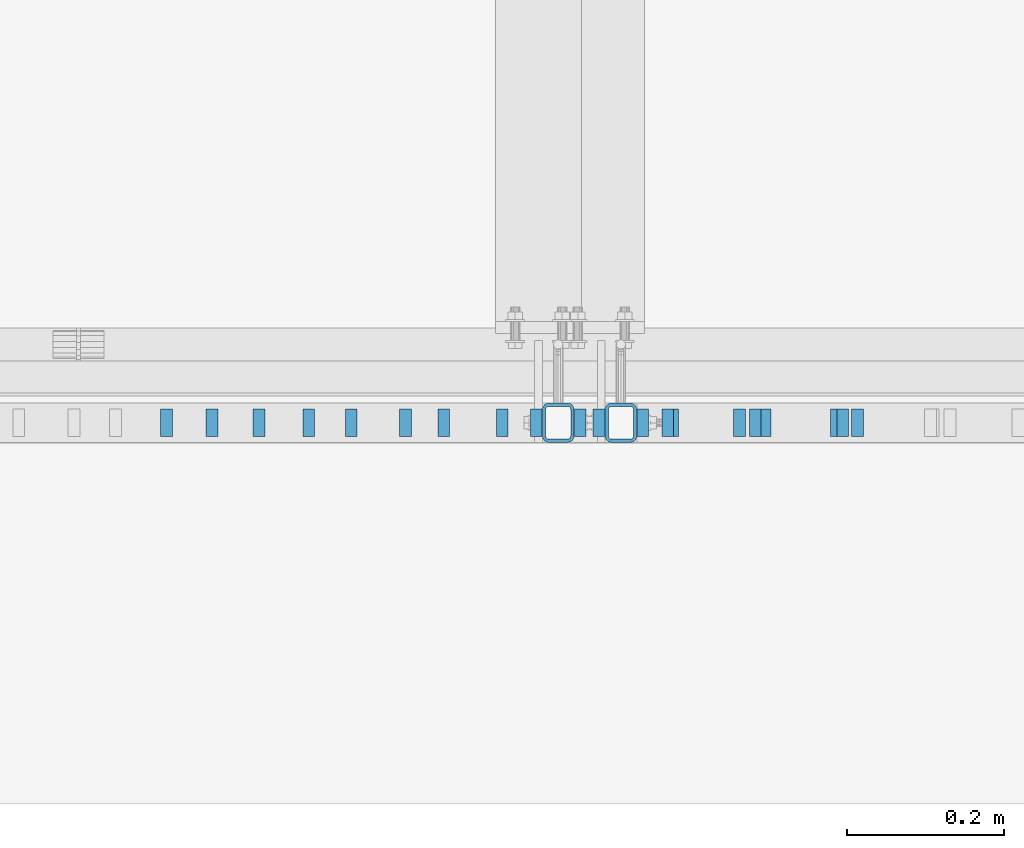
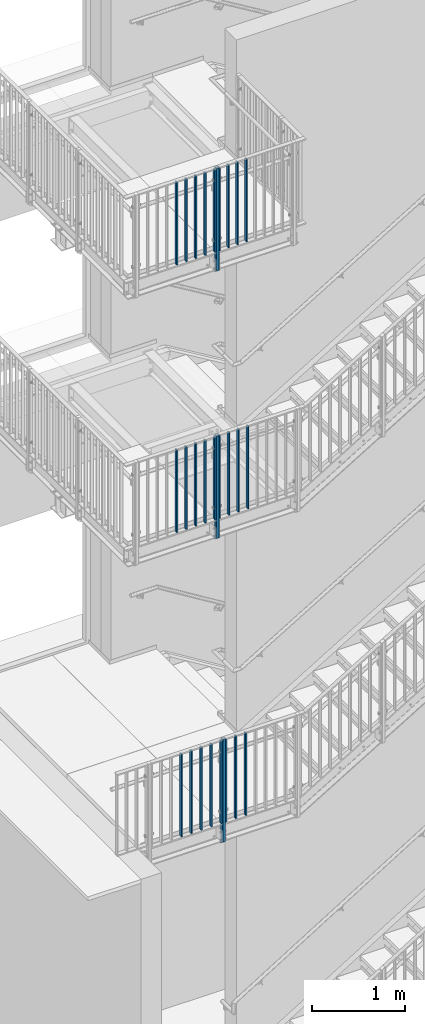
# One storey, part 2 of 410: 29 columns, 36 openings.
"""IFC2X3 building model written with IfcOpenShell, lengths in millimetres."""

from ifc_helpers import new_model, entity, si_unit, converted_unit, frame, frame_2d, origin, origin_with_axes, origin_2d, place, context, project, spatial, rectangle, hollow_rectangle, circle, extrude, clip, halfspace, material, element, save


model = new_model("IFC2X3")

# Units and contexts
model_context = context("Model", 3, precision=1e-09, world=origin_with_axes())
ifc_project = project(units=[si_unit("LENGTHUNIT", "METRE", prefix="MILLI"), si_unit("AREAUNIT", "SQUARE_METRE"), si_unit("VOLUMEUNIT", "CUBIC_METRE"), converted_unit("PLANEANGLEUNIT", "DEGREE", entity("IfcPlaneAngleMeasure", 0.01745329), si_unit("PLANEANGLEUNIT", "RADIAN"), dimensions=[0, 0, 0, 0, 0, 0, 0])], contexts=[model_context])

# Site, building, storey
site_placement = place(None, origin_with_axes())
site = spatial("IfcSite", under=ifc_project, at=site_placement, Name="mKR Teilneubau & Sanierung BA1 - Ostfildern", CompositionType="ELEMENT")
building_placement = place(site_placement, origin_with_axes())
building = spatial("IfcBuilding", under=site, at=building_placement, Name="Struktur 1", CompositionType="ELEMENT")
storey_placement = place(building_placement, origin_with_axes())
storey = spatial("IfcBuildingStorey", under=building, at=storey_placement, Name="Default Storey", CompositionType="ELEMENT", Elevation=0.0)

# Column, openings
ifc_material = material(Name="S235JR")
column_1_placement = place(None, frame((-2784.99853167, 15405.999999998, 8595.0), z_axis=(0.0, 0.0, 1.0), x_axis=(-1.0, 0.0, 0.0)))
column_1 = element("IfcColumn", 1, at=column_1_placement, inside=storey, material=ifc_material, Name="-", ObjectType="-", context=model_context, shape_type="Clipping", body=[
    clip(extrude(hollow_rectangle(XDim=40.0, YDim=50.0, WallThickness=4.0, InnerFilletRadius=4.0, OuterFilletRadius=8.0, at=origin_2d()), origin(), (0.0, 0.0, -1.0), 1444.603221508), halfspace(frame((-2784.99853167, 6937.065481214, 3499.89195223), z_axis=(0.0, -0.573576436, 0.819152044), x_axis=(1.0, 0.0, 0.0)), True)),
])
opening_1_placement = place(column_1_placement, frame((-20.5, 0.0, -1265.0), z_axis=(1.0, 0.0, 0.0), x_axis=(0.0, 1.0, 0.0)))
element("IfcOpeningElement", 2, at=opening_1_placement, cuts=column_1, ObjectType="Opening", context=model_context, shape_type="SweptSolid", body=[
    extrude(circle(Radius=7.001, at=frame_2d((0.0, 50.0), x_axis=(1.0, 0.0))), origin(), (0.0, 0.0, 1.0), 5.0),
])
opening_2_placement = place(column_1_placement, frame((-20.5, 0.0, -1265.0), z_axis=(1.0, 0.0, 0.0), x_axis=(0.0, 1.0, 0.0)))
element("IfcOpeningElement", 3, at=opening_2_placement, cuts=column_1, ObjectType="Opening", context=model_context, shape_type="SweptSolid", body=[
    extrude(circle(Radius=7.001, at=frame_2d((0.0, -50.0), x_axis=(1.0, 0.0))), origin(), (0.0, 0.0, 1.0), 5.0),
])
opening_3_placement = place(column_1_placement, frame((15.5, 0.0, -1265.0), z_axis=(1.0, 0.0, 0.0), x_axis=(0.0, 1.0, 0.0)))
element("IfcOpeningElement", 4, at=opening_3_placement, cuts=column_1, ObjectType="Opening", context=model_context, shape_type="SweptSolid", body=[
    extrude(circle(Radius=7.001, at=frame_2d((0.0, 50.0), x_axis=(1.0, 0.0))), origin(), (0.0, 0.0, 1.0), 5.0),
])
opening_4_placement = place(column_1_placement, frame((15.5, 0.0, -1265.0), z_axis=(1.0, 0.0, 0.0), x_axis=(0.0, 1.0, 0.0)))
element("IfcOpeningElement", 5, at=opening_4_placement, cuts=column_1, ObjectType="Opening", context=model_context, shape_type="SweptSolid", body=[
    extrude(circle(Radius=7.001, at=frame_2d((0.0, -50.0), x_axis=(1.0, 0.0))), origin(), (0.0, 0.0, 1.0), 5.0),
])
opening_5_placement = place(column_1_placement, frame((15.5, -6.501, -945.0), z_axis=(-1.0, 0.0, 0.0), x_axis=(0.0, -1.0, 0.0)))
element("IfcOpeningElement", 6, at=opening_5_placement, cuts=column_1, ObjectType="Opening", context=model_context, shape_type="SweptSolid", body=[
    extrude(circle(Radius=6.501, at=frame_2d((-6.501, 0.0), x_axis=(1.0, 0.0))), origin(), (0.0, 0.0, -1.0), 5.0),
])
opening_6_placement = place(column_1_placement, frame((15.5, -6.501, -160.0), z_axis=(-1.0, 0.0, 0.0), x_axis=(0.0, -1.0, 0.0)))
element("IfcOpeningElement", 7, at=opening_6_placement, cuts=column_1, ObjectType="Opening", context=model_context, shape_type="SweptSolid", body=[
    extrude(circle(Radius=6.501, at=frame_2d((-6.501, 0.0), x_axis=(1.0, 0.0))), origin(), (0.0, 0.0, -1.0), 5.0),
])
opening_7_placement = place(column_1_placement, frame((-20.5, -6.501, -945.0), z_axis=(-1.0, 0.0, 0.0), x_axis=(0.0, -1.0, 0.0)))
element("IfcOpeningElement", 8, at=opening_7_placement, cuts=column_1, ObjectType="Opening", context=model_context, shape_type="SweptSolid", body=[
    extrude(circle(Radius=6.501, at=frame_2d((-6.501, 0.0), x_axis=(1.0, 0.0))), origin(), (0.0, 0.0, -1.0), 5.0),
])
opening_8_placement = place(column_1_placement, frame((-20.5, -6.501, -160.0), z_axis=(-1.0, 0.0, 0.0), x_axis=(0.0, -1.0, 0.0)))
element("IfcOpeningElement", 9, at=opening_8_placement, cuts=column_1, ObjectType="Opening", context=model_context, shape_type="SweptSolid", body=[
    extrude(circle(Radius=6.501, at=frame_2d((-6.501, 0.0), x_axis=(1.0, 0.0))), origin(), (0.0, 0.0, -1.0), 5.0),
])

column_2_placement = place(None, frame((-2784.99853167, 15405.999999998, 5095.0), z_axis=(0.0, 0.0, 1.0), x_axis=(-1.0, 0.0, 0.0)))
column_2 = element("IfcColumn", 10, at=column_2_placement, inside=storey, material=ifc_material, Name="-", ObjectType="-", context=model_context, shape_type="Clipping", body=[
    clip(extrude(hollow_rectangle(XDim=40.0, YDim=50.0, WallThickness=4.0, InnerFilletRadius=4.0, OuterFilletRadius=8.0, at=origin_2d()), origin(), (0.0, 0.0, -1.0), 1444.603221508), halfspace(frame((-2784.99853167, 8581.527567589, 4651.356701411), z_axis=(0.0, -0.573576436, 0.819152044), x_axis=(1.0, 0.0, 0.0)), True)),
])
opening_9_placement = place(column_2_placement, frame((-20.5, 0.0, -1265.0), z_axis=(1.0, 0.0, 0.0), x_axis=(0.0, 1.0, 0.0)))
element("IfcOpeningElement", 11, at=opening_9_placement, cuts=column_2, ObjectType="Opening", context=model_context, shape_type="SweptSolid", body=[
    extrude(circle(Radius=7.001, at=frame_2d((0.0, 50.0), x_axis=(1.0, 0.0))), origin(), (0.0, 0.0, 1.0), 5.0),
])
opening_10_placement = place(column_2_placement, frame((-20.5, 0.0, -1265.0), z_axis=(1.0, 0.0, 0.0), x_axis=(0.0, 1.0, 0.0)))
element("IfcOpeningElement", 12, at=opening_10_placement, cuts=column_2, ObjectType="Opening", context=model_context, shape_type="SweptSolid", body=[
    extrude(circle(Radius=7.001, at=frame_2d((0.0, -50.0), x_axis=(1.0, 0.0))), origin(), (0.0, 0.0, 1.0), 5.0),
])
opening_11_placement = place(column_2_placement, frame((15.5, 0.0, -1265.0), z_axis=(1.0, 0.0, 0.0), x_axis=(0.0, 1.0, 0.0)))
element("IfcOpeningElement", 13, at=opening_11_placement, cuts=column_2, ObjectType="Opening", context=model_context, shape_type="SweptSolid", body=[
    extrude(circle(Radius=7.001, at=frame_2d((0.0, 50.0), x_axis=(1.0, 0.0))), origin(), (0.0, 0.0, 1.0), 5.0),
])
opening_12_placement = place(column_2_placement, frame((15.5, 0.0, -1265.0), z_axis=(1.0, 0.0, 0.0), x_axis=(0.0, 1.0, 0.0)))
element("IfcOpeningElement", 14, at=opening_12_placement, cuts=column_2, ObjectType="Opening", context=model_context, shape_type="SweptSolid", body=[
    extrude(circle(Radius=7.001, at=frame_2d((0.0, -50.0), x_axis=(1.0, 0.0))), origin(), (0.0, 0.0, 1.0), 5.0),
])
opening_13_placement = place(column_2_placement, frame((15.5, -6.501, -945.0), z_axis=(-1.0, 0.0, 0.0), x_axis=(0.0, -1.0, 0.0)))
element("IfcOpeningElement", 15, at=opening_13_placement, cuts=column_2, ObjectType="Opening", context=model_context, shape_type="SweptSolid", body=[
    extrude(circle(Radius=6.501, at=frame_2d((-6.501, 0.0), x_axis=(1.0, 0.0))), origin(), (0.0, 0.0, -1.0), 5.0),
])
opening_14_placement = place(column_2_placement, frame((15.5, -6.501, -160.0), z_axis=(-1.0, 0.0, 0.0), x_axis=(0.0, -1.0, 0.0)))
element("IfcOpeningElement", 16, at=opening_14_placement, cuts=column_2, ObjectType="Opening", context=model_context, shape_type="SweptSolid", body=[
    extrude(circle(Radius=6.501, at=frame_2d((-6.501, 0.0), x_axis=(1.0, 0.0))), origin(), (0.0, 0.0, -1.0), 5.0),
])
opening_15_placement = place(column_2_placement, frame((-20.5, -6.501, -945.0), z_axis=(-1.0, 0.0, 0.0), x_axis=(0.0, -1.0, 0.0)))
element("IfcOpeningElement", 17, at=opening_15_placement, cuts=column_2, ObjectType="Opening", context=model_context, shape_type="SweptSolid", body=[
    extrude(circle(Radius=6.501, at=frame_2d((-6.501, 0.0), x_axis=(1.0, 0.0))), origin(), (0.0, 0.0, -1.0), 5.0),
])
opening_16_placement = place(column_2_placement, frame((-20.5, -6.501, -160.0), z_axis=(-1.0, 0.0, 0.0), x_axis=(0.0, -1.0, 0.0)))
element("IfcOpeningElement", 18, at=opening_16_placement, cuts=column_2, ObjectType="Opening", context=model_context, shape_type="SweptSolid", body=[
    extrude(circle(Radius=6.501, at=frame_2d((-6.501, 0.0), x_axis=(1.0, 0.0))), origin(), (0.0, 0.0, -1.0), 5.0),
])

column_3_placement = place(None, frame((-2704.99853167, 15405.999999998, 1095.0), z_axis=(0.0, 0.0, 1.0), x_axis=(-1.0, 0.0, 0.0)))
column_3 = element("IfcColumn", 19, at=column_3_placement, inside=storey, material=ifc_material, Name="-", ObjectType="-", context=model_context, shape_type="Clipping", body=[
    clip(extrude(hollow_rectangle(XDim=40.0, YDim=50.0, WallThickness=4.0, InnerFilletRadius=4.0, OuterFilletRadius=8.0, at=origin_2d()), origin(), (0.0, 0.0, -1.0), 1444.603221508), halfspace(frame((-2704.99853167, 10460.912809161, 5967.316414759), z_axis=(0.0, -0.573576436, 0.819152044), x_axis=(1.0, 0.0, 0.0)), True)),
])
opening_17_placement = place(column_3_placement, frame((-20.5, 0.0, -1265.0), z_axis=(1.0, 0.0, 0.0), x_axis=(0.0, 1.0, 0.0)))
element("IfcOpeningElement", 20, at=opening_17_placement, cuts=column_3, ObjectType="Opening", context=model_context, shape_type="SweptSolid", body=[
    extrude(circle(Radius=7.001, at=frame_2d((0.0, 50.0), x_axis=(1.0, 0.0))), origin(), (0.0, 0.0, 1.0), 5.0),
])
opening_18_placement = place(column_3_placement, frame((-20.5, 0.0, -1265.0), z_axis=(1.0, 0.0, 0.0), x_axis=(0.0, 1.0, 0.0)))
element("IfcOpeningElement", 21, at=opening_18_placement, cuts=column_3, ObjectType="Opening", context=model_context, shape_type="SweptSolid", body=[
    extrude(circle(Radius=7.001, at=frame_2d((0.0, -50.0), x_axis=(1.0, 0.0))), origin(), (0.0, 0.0, 1.0), 5.0),
])
opening_19_placement = place(column_3_placement, frame((15.5, 0.0, -1265.0), z_axis=(1.0, 0.0, 0.0), x_axis=(0.0, 1.0, 0.0)))
element("IfcOpeningElement", 22, at=opening_19_placement, cuts=column_3, ObjectType="Opening", context=model_context, shape_type="SweptSolid", body=[
    extrude(circle(Radius=7.001, at=frame_2d((0.0, 50.0), x_axis=(1.0, 0.0))), origin(), (0.0, 0.0, 1.0), 5.0),
])
opening_20_placement = place(column_3_placement, frame((15.5, 0.0, -1265.0), z_axis=(1.0, 0.0, 0.0), x_axis=(0.0, 1.0, 0.0)))
element("IfcOpeningElement", 23, at=opening_20_placement, cuts=column_3, ObjectType="Opening", context=model_context, shape_type="SweptSolid", body=[
    extrude(circle(Radius=7.001, at=frame_2d((0.0, -50.0), x_axis=(1.0, 0.0))), origin(), (0.0, 0.0, 1.0), 5.0),
])
opening_21_placement = place(column_3_placement, frame((15.5, -6.501, -945.0), z_axis=(-1.0, 0.0, 0.0), x_axis=(0.0, -1.0, 0.0)))
element("IfcOpeningElement", 24, at=opening_21_placement, cuts=column_3, ObjectType="Opening", context=model_context, shape_type="SweptSolid", body=[
    extrude(circle(Radius=6.501, at=frame_2d((-6.501, 0.0), x_axis=(1.0, 0.0))), origin(), (0.0, 0.0, -1.0), 5.0),
])
opening_22_placement = place(column_3_placement, frame((15.5, -6.501, -160.0), z_axis=(-1.0, 0.0, 0.0), x_axis=(0.0, -1.0, 0.0)))
element("IfcOpeningElement", 25, at=opening_22_placement, cuts=column_3, ObjectType="Opening", context=model_context, shape_type="SweptSolid", body=[
    extrude(circle(Radius=6.501, at=frame_2d((-6.501, 0.0), x_axis=(1.0, 0.0))), origin(), (0.0, 0.0, -1.0), 5.0),
])
opening_23_placement = place(column_3_placement, frame((-20.5, -6.501, -945.0), z_axis=(-1.0, 0.0, 0.0), x_axis=(0.0, -1.0, 0.0)))
element("IfcOpeningElement", 26, at=opening_23_placement, cuts=column_3, ObjectType="Opening", context=model_context, shape_type="SweptSolid", body=[
    extrude(circle(Radius=6.501, at=frame_2d((-6.501, 0.0), x_axis=(1.0, 0.0))), origin(), (0.0, 0.0, -1.0), 5.0),
])
opening_24_placement = place(column_3_placement, frame((-20.5, -6.501, -160.0), z_axis=(-1.0, 0.0, 0.0), x_axis=(0.0, -1.0, 0.0)))
element("IfcOpeningElement", 27, at=opening_24_placement, cuts=column_3, ObjectType="Opening", context=model_context, shape_type="SweptSolid", body=[
    extrude(circle(Radius=6.501, at=frame_2d((-6.501, 0.0), x_axis=(1.0, 0.0))), origin(), (0.0, 0.0, -1.0), 5.0),
])

# Columns
for number, where, z_axis, x_axis in (
    (28, (-2930.99853167, 15405.999999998, 5085.0), (0.0, 0.0, 1.0), (-1.0, 0.0, 0.0)),
    (29, (-3048.99853167, 15405.999999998, 5085.0), (0.0, 0.0, 1.0), (-1.0, 0.0, 0.0)),
    (30, (-3166.99853167, 15405.999999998, 5085.0), (0.0, 0.0, 1.0), (-1.0, 0.0, 0.0)),
    (31, (-3284.99853167, 15405.999999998, 5085.0), (0.0, 0.0, 1.0), (-1.0, 0.0, 0.0)),
    (32, (-3226.71281747, 15405.999999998, 0.0), (0.0, 0.0, -1.0), (1.0, 0.0, 0.0)),
    (33, (-3103.28424607, 15405.999999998, 0.0), (0.0, 0.0, -1.0), (1.0, 0.0, 0.0)),
    (34, (-2979.85567467, 15405.999999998, 0.0), (0.0, 0.0, -1.0), (1.0, 0.0, 0.0)),
    (35, (-2856.42710327, 15405.999999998, 0.0), (0.0, 0.0, -1.0), (1.0, 0.0, 0.0)),
):
    element("IfcColumn", number, at=place(None, frame(where, z_axis=z_axis, x_axis=x_axis)), inside=storey, material=ifc_material, Name="-", ObjectType="-", context=model_context, shape_type="SweptSolid", body=[
        extrude(rectangle(XDim=15.0, YDim=35.0, at=origin_2d()), origin(), (0.0, 0.0, -1.0), 1085.0),
    ])

# Column, openings
column_4_placement = place(None, frame((-2756.99853167, 15405.999999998, 4000.0), z_axis=(0.0, 0.0, -1.0), x_axis=(1.0, 0.0, 0.0)))
column_4 = element("IfcColumn", 36, at=column_4_placement, inside=storey, material=ifc_material, Name="-", ObjectType="-", context=model_context, shape_type="SweptSolid", body=[
    extrude(rectangle(XDim=15.0, YDim=35.0, at=origin_2d()), origin(), (0.0, 0.0, -1.0), 1085.0),
])
opening_25_placement = place(column_4_placement, frame((8.0, -6.001, -150.0), z_axis=(1.0, 0.0, 0.0), x_axis=(0.0, 1.0, 0.0)))
element("IfcOpeningElement", 37, at=opening_25_placement, cuts=column_4, ObjectType="Opening", context=model_context, shape_type="SweptSolid", body=[
    extrude(circle(Radius=6.001, at=frame_2d((6.001, 0.0), x_axis=(1.0, 0.0))), origin(), (0.0, 0.0, -1.0), 16.0),
])
opening_26_placement = place(column_4_placement, frame((8.0, -6.001, -935.0), z_axis=(1.0, 0.0, 0.0), x_axis=(0.0, 1.0, 0.0)))
element("IfcOpeningElement", 38, at=opening_26_placement, cuts=column_4, ObjectType="Opening", context=model_context, shape_type="SweptSolid", body=[
    extrude(circle(Radius=6.001, at=frame_2d((6.001, 0.0), x_axis=(1.0, 0.0))), origin(), (0.0, 0.0, -1.0), 16.0),
])

# Columns
for number, where, z_axis, x_axis in (
    (39, (-2402.99853167, 15405.999999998, 5085.0), (0.0, 0.0, 1.0), (-1.0, 0.0, 0.0)),
    (40, (-2520.99853167, 15405.999999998, 5085.0), (0.0, 0.0, 1.0), (-1.0, 0.0, 0.0)),
    (41, (-2638.99853167, 15405.999999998, 5085.0), (0.0, 0.0, 1.0), (-1.0, 0.0, 0.0)),
):
    element("IfcColumn", number, at=place(None, frame(where, z_axis=z_axis, x_axis=x_axis)), inside=storey, material=ifc_material, Name="-", ObjectType="-", context=model_context, shape_type="SweptSolid", body=[
        extrude(rectangle(XDim=15.0, YDim=35.0, at=origin_2d()), origin(), (0.0, 0.0, -1.0), 1085.0),
    ])

# Column, openings
column_5_placement = place(None, frame((-2756.99853167, 15405.999999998, 7500.0), z_axis=(0.0, 0.0, -1.0), x_axis=(1.0, 0.0, 0.0)))
column_5 = element("IfcColumn", 42, at=column_5_placement, inside=storey, material=ifc_material, Name="-", ObjectType="-", context=model_context, shape_type="SweptSolid", body=[
    extrude(rectangle(XDim=15.0, YDim=35.0, at=origin_2d()), origin(), (0.0, 0.0, -1.0), 1085.0),
])
opening_27_placement = place(column_5_placement, frame((8.0, -6.001, -150.0), z_axis=(1.0, 0.0, 0.0), x_axis=(0.0, 1.0, 0.0)))
element("IfcOpeningElement", 43, at=opening_27_placement, cuts=column_5, ObjectType="Opening", context=model_context, shape_type="SweptSolid", body=[
    extrude(circle(Radius=6.001, at=frame_2d((6.001, 0.0), x_axis=(1.0, 0.0))), origin(), (0.0, 0.0, -1.0), 16.0),
])
opening_28_placement = place(column_5_placement, frame((8.0, -6.001, -935.0), z_axis=(1.0, 0.0, 0.0), x_axis=(0.0, 1.0, 0.0)))
element("IfcOpeningElement", 44, at=opening_28_placement, cuts=column_5, ObjectType="Opening", context=model_context, shape_type="SweptSolid", body=[
    extrude(circle(Radius=6.001, at=frame_2d((6.001, 0.0), x_axis=(1.0, 0.0))), origin(), (0.0, 0.0, -1.0), 16.0),
])

column_6_placement = place(None, frame((-2812.99853167, 15405.999999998, 8585.0), z_axis=(0.0, 0.0, 1.0), x_axis=(-1.0, 0.0, 0.0)))
column_6 = element("IfcColumn", 45, at=column_6_placement, inside=storey, material=ifc_material, Name="-", ObjectType="-", context=model_context, shape_type="SweptSolid", body=[
    extrude(rectangle(XDim=15.0, YDim=35.0, at=origin_2d()), origin(), (0.0, 0.0, -1.0), 1085.0),
])
opening_29_placement = place(column_6_placement, frame((-8.0, -6.001, -935.0), z_axis=(-1.0, 0.0, 0.0), x_axis=(0.0, -1.0, 0.0)))
element("IfcOpeningElement", 46, at=opening_29_placement, cuts=column_6, ObjectType="Opening", context=model_context, shape_type="SweptSolid", body=[
    extrude(circle(Radius=6.001, at=frame_2d((-6.001, 0.0), x_axis=(1.0, 0.0))), origin(), (0.0, 0.0, -1.0), 16.0),
])
opening_30_placement = place(column_6_placement, frame((-8.0, -6.001, -150.0), z_axis=(-1.0, 0.0, 0.0), x_axis=(0.0, -1.0, 0.0)))
element("IfcOpeningElement", 47, at=opening_30_placement, cuts=column_6, ObjectType="Opening", context=model_context, shape_type="SweptSolid", body=[
    extrude(circle(Radius=6.001, at=frame_2d((-6.001, 0.0), x_axis=(1.0, 0.0))), origin(), (0.0, 0.0, -1.0), 16.0),
])

# Columns
for number, where, z_axis, x_axis in (
    (48, (-2930.99853167, 15405.999999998, 8585.0), (0.0, 0.0, 1.0), (-1.0, 0.0, 0.0)),
    (49, (-3048.99853167, 15405.999999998, 8585.0), (0.0, 0.0, 1.0), (-1.0, 0.0, 0.0)),
    (50, (-3166.99853167, 15405.999999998, 8585.0), (0.0, 0.0, 1.0), (-1.0, 0.0, 0.0)),
    (51, (-3284.99853167, 15405.999999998, 8585.0), (0.0, 0.0, 1.0), (-1.0, 0.0, 0.0)),
    (52, (-2645.24853167, 15405.999999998, 7500.0), (0.0, 0.0, -1.0), (1.0, 0.0, 0.0)),
    (53, (-2533.49853167, 15405.999999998, 7500.0), (0.0, 0.0, -1.0), (1.0, 0.0, 0.0)),
    (54, (-2421.74853167, 15405.999999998, 7500.0), (0.0, 0.0, -1.0), (1.0, 0.0, 0.0)),
):
    element("IfcColumn", number, at=place(None, frame(where, z_axis=z_axis, x_axis=x_axis)), inside=storey, material=ifc_material, Name="-", ObjectType="-", context=model_context, shape_type="SweptSolid", body=[
        extrude(rectangle(XDim=15.0, YDim=35.0, at=origin_2d()), origin(), (0.0, 0.0, -1.0), 1085.0),
    ])

# Column, openings
column_7_placement = place(None, frame((-2676.99853167, 15405.999999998, 0.0), z_axis=(0.0, 0.0, -1.0), x_axis=(1.0, 0.0, 0.0)))
column_7 = element("IfcColumn", 55, at=column_7_placement, inside=storey, material=ifc_material, Name="-", ObjectType="-", context=model_context, shape_type="SweptSolid", body=[
    extrude(rectangle(XDim=15.0, YDim=35.0, at=origin_2d()), origin(), (0.0, 0.0, -1.0), 1085.0),
])
opening_31_placement = place(column_7_placement, frame((8.0, -6.001, -150.0), z_axis=(1.0, 0.0, 0.0), x_axis=(0.0, 1.0, 0.0)))
element("IfcOpeningElement", 56, at=opening_31_placement, cuts=column_7, ObjectType="Opening", context=model_context, shape_type="SweptSolid", body=[
    extrude(circle(Radius=6.001, at=frame_2d((6.001, 0.0), x_axis=(1.0, 0.0))), origin(), (0.0, 0.0, -1.0), 16.0),
])
opening_32_placement = place(column_7_placement, frame((8.0, -6.001, -935.0), z_axis=(1.0, 0.0, 0.0), x_axis=(0.0, 1.0, 0.0)))
element("IfcOpeningElement", 57, at=opening_32_placement, cuts=column_7, ObjectType="Opening", context=model_context, shape_type="SweptSolid", body=[
    extrude(circle(Radius=6.001, at=frame_2d((6.001, 0.0), x_axis=(1.0, 0.0))), origin(), (0.0, 0.0, -1.0), 16.0),
])

# Columns
for number, where, z_axis, x_axis in (
    (58, (-2553.56996027, 15405.999999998, 0.0), (0.0, 0.0, -1.0), (1.0, 0.0, 0.0)),
    (59, (-2430.14138887, 15405.999999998, 0.0), (0.0, 0.0, -1.0), (1.0, 0.0, 0.0)),
):
    element("IfcColumn", number, at=place(None, frame(where, z_axis=z_axis, x_axis=x_axis)), inside=storey, material=ifc_material, Name="-", ObjectType="-", context=model_context, shape_type="SweptSolid", body=[
        extrude(rectangle(XDim=15.0, YDim=35.0, at=origin_2d()), origin(), (0.0, 0.0, -1.0), 1085.0),
    ])

# Column, openings
column_8_placement = place(None, frame((-2812.99853167, 15405.999999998, 5085.0), z_axis=(0.0, 0.0, 1.0), x_axis=(-1.0, 0.0, 0.0)))
column_8 = element("IfcColumn", 60, at=column_8_placement, inside=storey, material=ifc_material, Name="-", ObjectType="-", context=model_context, shape_type="SweptSolid", body=[
    extrude(rectangle(XDim=15.0, YDim=35.0, at=origin_2d()), origin(), (0.0, 0.0, -1.0), 1085.0),
])
opening_33_placement = place(column_8_placement, frame((-8.0, -6.001, -935.0), z_axis=(-1.0, 0.0, 0.0), x_axis=(0.0, -1.0, 0.0)))
element("IfcOpeningElement", 61, at=opening_33_placement, cuts=column_8, ObjectType="Opening", context=model_context, shape_type="SweptSolid", body=[
    extrude(circle(Radius=6.001, at=frame_2d((-6.001, 0.0), x_axis=(1.0, 0.0))), origin(), (0.0, 0.0, -1.0), 16.0),
])
opening_34_placement = place(column_8_placement, frame((-8.0, -6.001, -150.0), z_axis=(-1.0, 0.0, 0.0), x_axis=(0.0, -1.0, 0.0)))
element("IfcOpeningElement", 62, at=opening_34_placement, cuts=column_8, ObjectType="Opening", context=model_context, shape_type="SweptSolid", body=[
    extrude(circle(Radius=6.001, at=frame_2d((-6.001, 0.0), x_axis=(1.0, 0.0))), origin(), (0.0, 0.0, -1.0), 16.0),
])

column_9_placement = place(None, frame((-2732.99853167, 15405.999999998, 1085.0), z_axis=(0.0, 0.0, 1.0), x_axis=(-1.0, 0.0, 0.0)))
column_9 = element("IfcColumn", 63, at=column_9_placement, inside=storey, material=ifc_material, Name="-", ObjectType="-", context=model_context, shape_type="SweptSolid", body=[
    extrude(rectangle(XDim=15.0, YDim=35.0, at=origin_2d()), origin(), (0.0, 0.0, -1.0), 1085.0),
])
opening_35_placement = place(column_9_placement, frame((-8.0, -6.001, -935.0), z_axis=(-1.0, 0.0, 0.0), x_axis=(0.0, -1.0, 0.0)))
element("IfcOpeningElement", 64, at=opening_35_placement, cuts=column_9, ObjectType="Opening", context=model_context, shape_type="SweptSolid", body=[
    extrude(circle(Radius=6.001, at=frame_2d((-6.001, 0.0), x_axis=(1.0, 0.0))), origin(), (0.0, 0.0, -1.0), 16.0),
])
opening_36_placement = place(column_9_placement, frame((-8.0, -6.001, -150.0), z_axis=(-1.0, 0.0, 0.0), x_axis=(0.0, -1.0, 0.0)))
element("IfcOpeningElement", 65, at=opening_36_placement, cuts=column_9, ObjectType="Opening", context=model_context, shape_type="SweptSolid", body=[
    extrude(circle(Radius=6.001, at=frame_2d((-6.001, 0.0), x_axis=(1.0, 0.0))), origin(), (0.0, 0.0, -1.0), 16.0),
])

save(model, "model.ifc")
